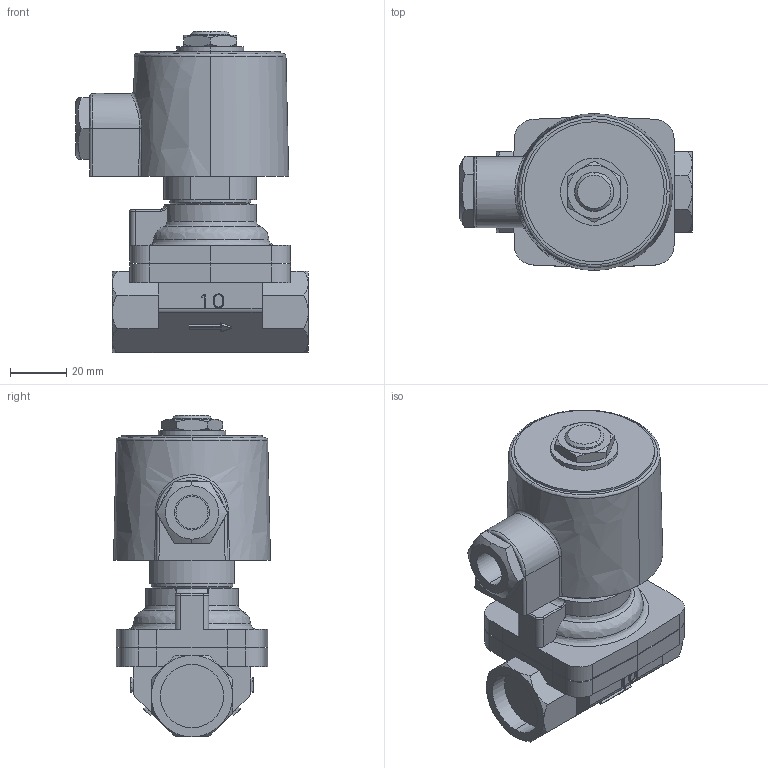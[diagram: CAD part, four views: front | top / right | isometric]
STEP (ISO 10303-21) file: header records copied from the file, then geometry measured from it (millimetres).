
FILE_DESCRIPTION( (''), '2;1');
FILE_NAME ('PC1027.3008.DP-200(10A)_4308.stp','2025-07-29T08:51:25',(''),(''),'spGate 19.8.4 (****-****-****-****)','','');
FILE_SCHEMA (('AUTOMOTIVE_DESIGN'));
Length unit declared in the file: millimetre
Products named in the file (5): Assembly; DP-200(10A)本体; DP200パイプ1Ｂ以下; ACコイル10A; コイル六角ナット座金
Assembly tree (4 placements, depth 2):
  Assembly
    DP-200(10A)本体
    DP200パイプ1Ｂ以下
    ACコイル10A
    コイル六角ナット座金
Bounding box: 83 x 56 x 114.7 mm (x, y, z)
Volume: 222113 mm3; surface area: 49266.1 mm2
Topology: 4 solids, 4 shells, 313 faces, 734 edges, 450 vertices
Faces by surface type: plane 132, cylinder 93, bspline 88
Entity records: 17178 total; most frequent: CARTESIAN_POINT 4557, ORIENTED_EDGE 1464, DIRECTION 1202, COLOUR_RGB 1049, PRESENTATION_STYLE_ASSIGNMENT 1049, STYLED_ITEM 1049, EDGE_CURVE 732, DRAUGHTING_PRE_DEFINED_CURVE_FONT 732
